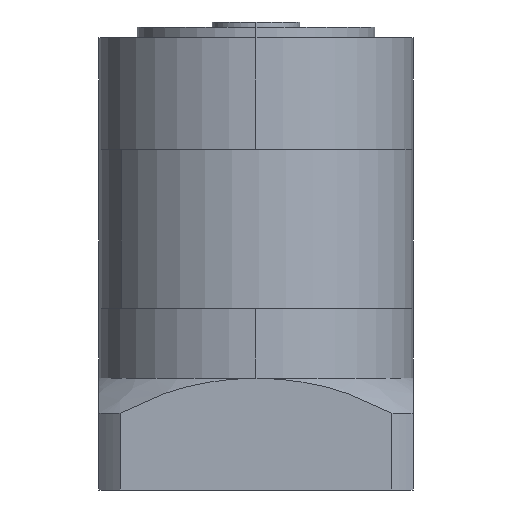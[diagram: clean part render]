
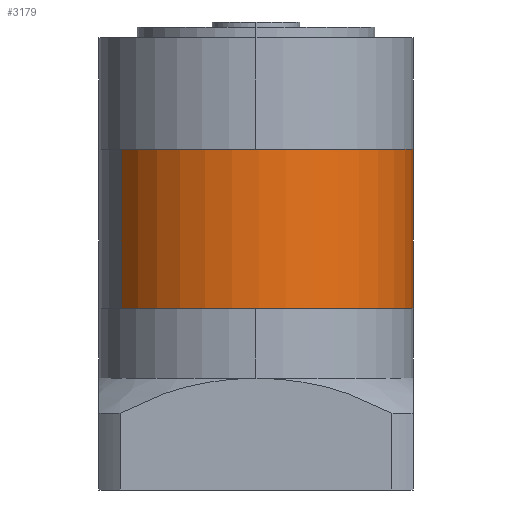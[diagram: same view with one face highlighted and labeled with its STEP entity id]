
A CAD part, left-side view. The second image highlights one B-rep face of the part: STEP entity #3179.
In plain terms, the highlighted cylindrical face has radius 45 mm (diameter 90 mm), a partial arc.
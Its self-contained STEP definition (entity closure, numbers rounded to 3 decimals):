
#588 = AXIS2_PLACEMENT_3D ( 'NONE', #25784, #43036, #22325 ) ;
#3179 = ADVANCED_FACE ( 'NONE', ( #12574 ), #3396, .T. ) ;
#3256 = ORIENTED_EDGE ( 'NONE', *, *, #4866, .T. ) ;
#3363 = VECTOR ( 'NONE', #28369, 1000. ) ;
#3396 = CYLINDRICAL_SURFACE ( 'NONE', #588, 45. ) ;
#3874 = DIRECTION ( 'NONE',  ( 0., 1., 0. ) ) ;
#4072 = VERTEX_POINT ( 'NONE', #7745 ) ;
#4808 = VERTEX_POINT ( 'NONE', #26539 ) ;
#4866 = EDGE_CURVE ( 'NONE', #12820, #4808, #35689, .T. ) ;
#6425 = CARTESIAN_POINT ( 'NONE',  ( 0., 0., 22.75 ) ) ;
#7548 = ORIENTED_EDGE ( 'NONE', *, *, #21619, .F. ) ;
#7745 = CARTESIAN_POINT ( 'NONE',  ( 0., -45., -22.75 ) ) ;
#8828 = EDGE_CURVE ( 'NONE', #32108, #4072, #21485, .T. ) ;
#9927 = DIRECTION ( 'NONE',  ( 0., 1., 0. ) ) ;
#10474 = LINE ( 'NONE', #19109, #36914 ) ;
#11146 = CARTESIAN_POINT ( 'NONE',  ( 0., -45., 22.75 ) ) ;
#12574 = FACE_OUTER_BOUND ( 'NONE', #28250, .T. ) ;
#12820 = VERTEX_POINT ( 'NONE', #11146 ) ;
#14361 = CARTESIAN_POINT ( 'NONE',  ( 0., -45., 22.75 ) ) ;
#16353 = ORIENTED_EDGE ( 'NONE', *, *, #8828, .T. ) ;
#17708 = CARTESIAN_POINT ( 'NONE',  ( 0., 45., -22.75 ) ) ;
#19109 = CARTESIAN_POINT ( 'NONE',  ( 0., 45., 22.75 ) ) ;
#20664 = LINE ( 'NONE', #14361, #3363 ) ;
#21485 = CIRCLE ( 'NONE', #39457, 45. ) ;
#21619 = EDGE_CURVE ( 'NONE', #12820, #4072, #20664, .T. ) ;
#22325 = DIRECTION ( 'NONE',  ( 0., 1., 0. ) ) ;
#23960 = DIRECTION ( 'NONE',  ( 0., 0., 1. ) ) ;
#25784 = CARTESIAN_POINT ( 'NONE',  ( 0., 0., 22.75 ) ) ;
#26539 = CARTESIAN_POINT ( 'NONE',  ( 0., 45., 22.75 ) ) ;
#28250 = EDGE_LOOP ( 'NONE', ( #7548, #3256, #33480, #16353 ) ) ;
#28369 = DIRECTION ( 'NONE',  ( 0., 0., -1. ) ) ;
#30579 = DIRECTION ( 'NONE',  ( 0., 0., -1. ) ) ;
#32108 = VERTEX_POINT ( 'NONE', #17708 ) ;
#33480 = ORIENTED_EDGE ( 'NONE', *, *, #38485, .T. ) ;
#35689 = CIRCLE ( 'NONE', #40548, 45. ) ;
#36914 = VECTOR ( 'NONE', #39944, 1000. ) ;
#38485 = EDGE_CURVE ( 'NONE', #4808, #32108, #10474, .T. ) ;
#39457 = AXIS2_PLACEMENT_3D ( 'NONE', #44672, #23960, #3874 ) ;
#39944 = DIRECTION ( 'NONE',  ( 0., 0., -1. ) ) ;
#40548 = AXIS2_PLACEMENT_3D ( 'NONE', #6425, #30579, #9927 ) ;
#43036 = DIRECTION ( 'NONE',  ( 0., 0., -1. ) ) ;
#44672 = CARTESIAN_POINT ( 'NONE',  ( 0., 0., -22.75 ) ) ;
